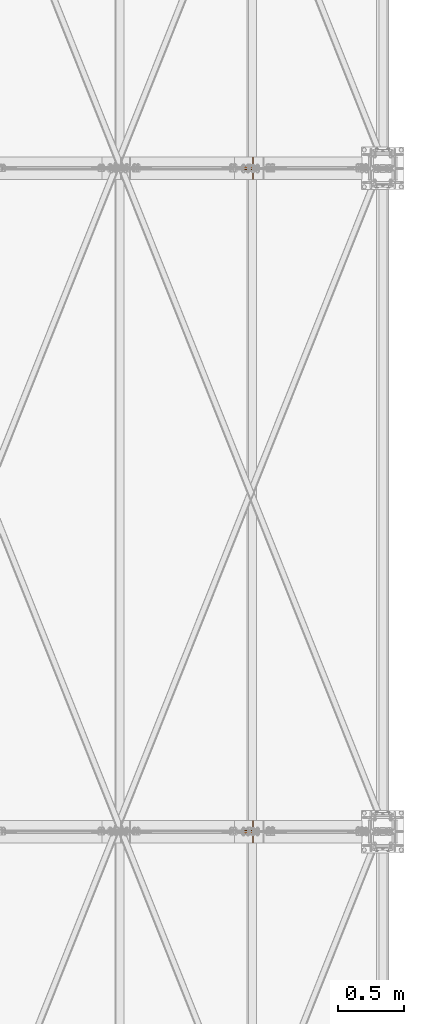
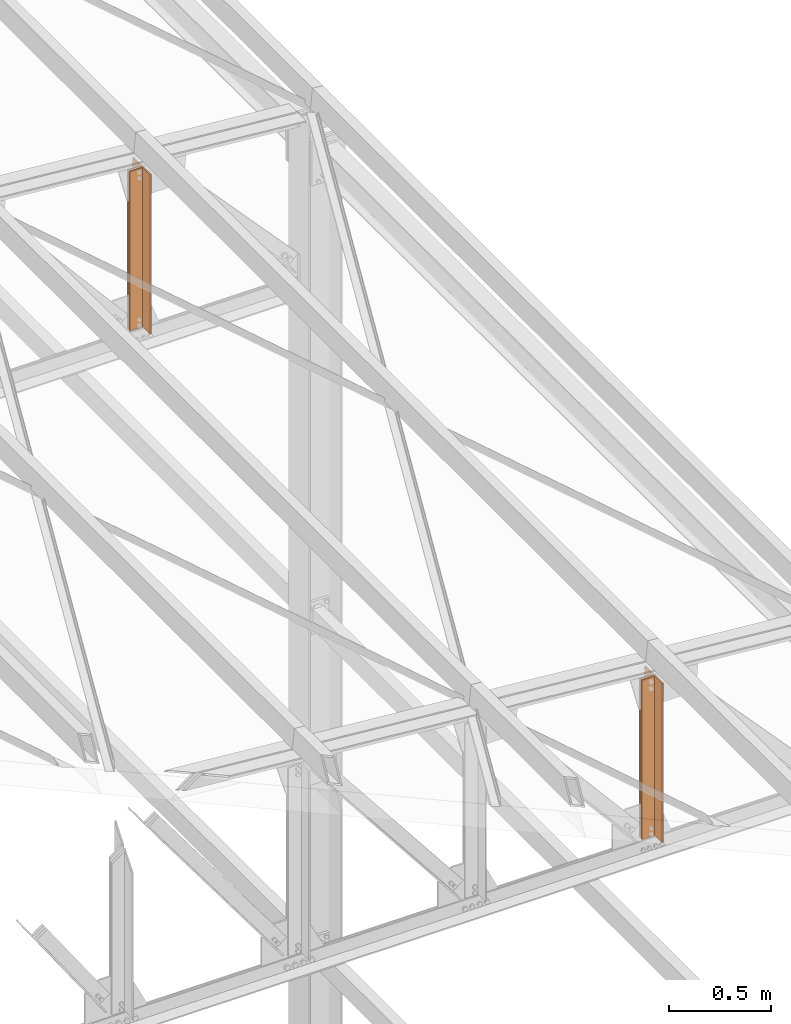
# One storey, part 249 of 251: 4 proxies.
"""IFC4 building model written with IfcOpenShell, lengths in metres."""

from ifc_helpers import new_model, si_unit, frame, origin_with_axes, origin_2d_with_axis, place, context, project, spatial, polyline, i_section, outline, extrude, material, material_profile, profile_set, profile_usage, type_object, element, save


model = new_model("IFC4")

# Units and contexts
model_context = context("Model", 3, precision=1e-05, world=origin_with_axes())
ifc_project = project(units=[si_unit("LENGTHUNIT", "METRE"), si_unit("AREAUNIT", "SQUARE_METRE"), si_unit("VOLUMEUNIT", "CUBIC_METRE"), si_unit("MASSUNIT", "GRAM", prefix="KILO"), si_unit("TIMEUNIT", "SECOND"), si_unit("PLANEANGLEUNIT", "RADIAN"), si_unit("SOLIDANGLEUNIT", "STERADIAN"), si_unit("THERMODYNAMICTEMPERATUREUNIT", "DEGREE_CELSIUS")], contexts=[model_context])

# Site, building, storey
placement_1 = place(None, origin_with_axes())
site = spatial("IfcSite", under=ifc_project, at=placement_1, Name="Italia", CompositionType="ELEMENT")
building = spatial("IfcBuilding", under=site, at=placement_1, Name="Deposito", CompositionType="ELEMENT")
storey = spatial("IfcBuildingStorey", under=building, at=placement_1, Name="Storey 0", CompositionType="ELEMENT", Elevation=0.0)

# Proxies
ifc_material = material(Name="Acciaio", Category="Acciaio")
ifc_material_profile = material_profile(ifc_material, i_section(OverallWidth=0.2, OverallDepth=0.19, WebThickness=0.006, FlangeThickness=0.01, FilletRadius=0.018, at=origin_2d_with_axis()), Name="7 PILASTRO HEA200")
ifc_profile_set = profile_set([ifc_material_profile])
ifc_profile_usage_1 = profile_usage(ifc_profile_set, cardinal=1)
member_type_1 = type_object("IfcMemberType", Name="5 2L80x8", PredefinedType="MEMBER", material=ifc_profile_usage_1)
placement_2 = place(placement_1, origin_with_axes())
proxy_1_placement = place(placement_2, origin_with_axes())
element("IfcBuildingElementProxy", 1, at=proxy_1_placement, inside=storey, type_object=member_type_1, Name="46", context=model_context, shape_type="SweptSolid", body=[
    extrude(outline(polyline([(0.0, 0.0), (-0.0799999, 0.0), (-0.0799999, 0.00799942), (-0.00799942, 0.00799942), (-0.00799942, 0.0799999), (0.0, 0.0799999), (0.0, 0.0)])), frame((19.0263, 9.995, 5.06753), z_axis=(0.0, 0.0, 1.0), x_axis=(0.0, 1.0, 0.0)), (0.0, 0.0, 1.0), 0.949862),
])
ifc_profile_usage_2 = profile_usage(ifc_profile_set, cardinal=1)
member_type_2 = type_object("IfcMemberType", Name="5 2L80x8", PredefinedType="MEMBER", material=ifc_profile_usage_2)
proxy_2_placement = place(placement_2, origin_with_axes())
element("IfcBuildingElementProxy", 2, at=proxy_2_placement, inside=storey, type_object=member_type_2, Name="46", context=model_context, shape_type="SweptSolid", body=[
    extrude(outline(polyline([(0.0, 0.0), (0.00799942, 0.0), (0.00799942, -0.0720005), (0.0799999, -0.0720005), (0.0799999, -0.0799999), (0.0, -0.0799999), (0.0, 0.0)])), frame((18.9463, 10.005, 5.06753), z_axis=(0.0, 0.0, 1.0), x_axis=(0.0, 1.0, 0.0)), (0.0, 0.0, 1.0), 0.949862),
])
ifc_profile_usage_3 = profile_usage(ifc_profile_set, cardinal=1)
member_type_3 = type_object("IfcMemberType", Name="5 2L80x8", PredefinedType="MEMBER", material=ifc_profile_usage_3)
proxy_3_placement = place(placement_2, origin_with_axes())
element("IfcBuildingElementProxy", 3, at=proxy_3_placement, inside=storey, type_object=member_type_3, Name="61", context=model_context, shape_type="SweptSolid", body=[
    extrude(outline(polyline([(0.0, 0.0), (-0.0799999, 0.0), (-0.0799999, 0.00799942), (-0.00799942, 0.00799942), (-0.00799942, 0.0799999), (0.0, 0.0799999), (0.0, 0.0)])), frame((19.0263, 14.995, 5.06753), z_axis=(0.0, 0.0, 1.0), x_axis=(0.0, 1.0, 0.0)), (0.0, 0.0, 1.0), 0.949862),
])
ifc_profile_usage_4 = profile_usage(ifc_profile_set, cardinal=1)
member_type_4 = type_object("IfcMemberType", Name="5 2L80x8", PredefinedType="MEMBER", material=ifc_profile_usage_4)
proxy_4_placement = place(placement_2, origin_with_axes())
element("IfcBuildingElementProxy", 4, at=proxy_4_placement, inside=storey, type_object=member_type_4, Name="61", context=model_context, shape_type="SweptSolid", body=[
    extrude(outline(polyline([(0.0, 0.0), (0.00799942, 0.0), (0.00799942, -0.0720005), (0.0799999, -0.0720005), (0.0799999, -0.0799999), (0.0, -0.0799999), (0.0, 0.0)])), frame((18.9463, 15.005, 5.06753), z_axis=(0.0, 0.0, 1.0), x_axis=(0.0, 1.0, 0.0)), (0.0, 0.0, 1.0), 0.949862),
])

save(model, "model.ifc")
